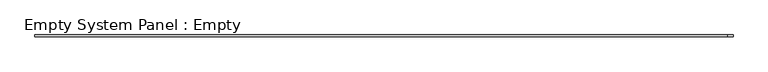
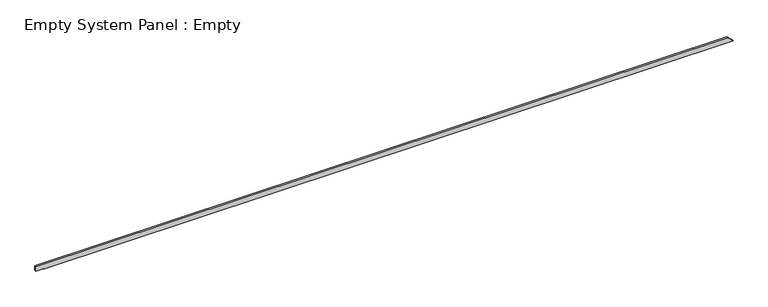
"""IFC4 building model written with IfcOpenShell, lengths in millimetres: plate geometry, Empty System Panel : Empty."""

from ifc_helpers import new_model, si_unit, frame, origin, place, context, project, spatial, polyline, outline, extrude, source, transform, mapped, element, save


def empty_system_panel_empty_1d56c370(model_context):
    return source(origin(), model_context, "Body", "SweptSolid", [
        extrude(outline(polyline([(0.0, -20012.6465172), (0.0, 20432.6465172), (310.0, 20126.0762478), (310.0, -20432.6465172), (35.2403755, -20432.6465172), (35.2403755, -20012.6465172), (0.0, -20012.6465172)])), frame((0.0, -50.0, 0.0), z_axis=(0.0, 1.0, 0.0), x_axis=(0.0, 0.0, 1.0)), (0.0, 0.0, 1.0), 100.0),
    ])


if __name__ == "__main__":
    model = new_model("IFC4")
    model_context = context("Model", 3, world=origin())
    ifc_project = project(units=[si_unit("LENGTHUNIT", "METRE", prefix="MILLI")], contexts=[model_context])
    site = spatial("IfcSite", under=ifc_project)
    building = spatial("IfcBuilding", under=site)
    placement = place(None, origin())
    empty_system_panel_empty_shape = empty_system_panel_empty_1d56c370(model_context)
    element("IfcPlate", 1, ObjectType="Empty System Panel : Empty", at=placement, inside=building, context=model_context, shape_type="MappedRepresentation", body=[
        mapped(empty_system_panel_empty_shape, transform((0.0, 0.0, 0.0), x_axis=(1.0, 0.0, 0.0), y_axis=(0.0, 1.0, 0.0), z_axis=(0.0, 0.0, 1.0))),
    ])
    save(model, "model.ifc")
